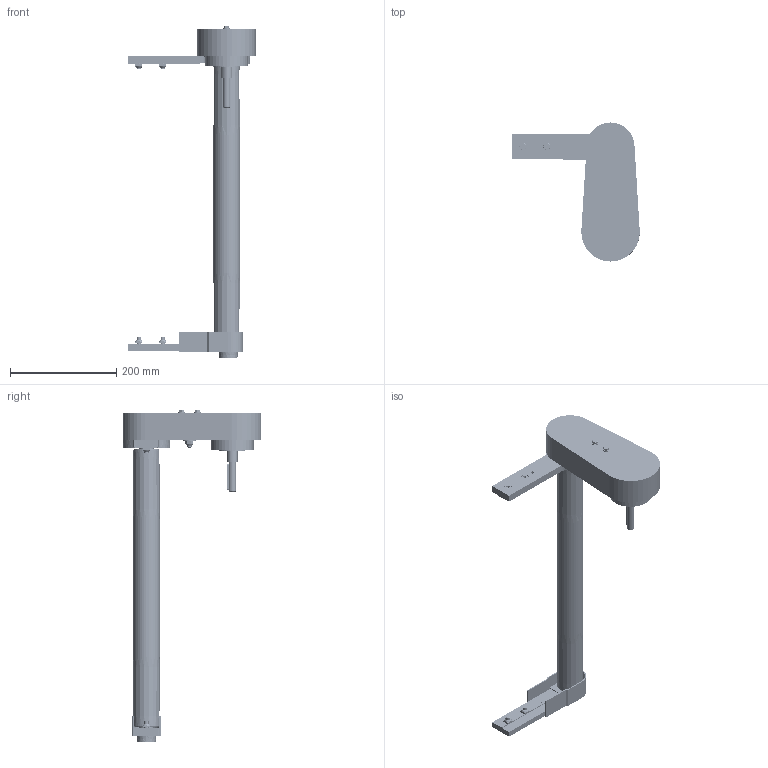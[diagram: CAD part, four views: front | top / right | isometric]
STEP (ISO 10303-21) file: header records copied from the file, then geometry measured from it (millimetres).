
FILE_DESCRIPTION (( 'STEP AP203' ), '1' );
FILE_NAME ('084.050.KTC.30.500.STEP', '2019-07-29T13:15:06', ( '' ), ( '' ), 'SwSTEP 2.0', 'SolidWorks 2018', '' );
FILE_SCHEMA (( 'CONFIG_CONTROL_DESIGN' ));
Length unit declared in the file: millimetre
Products named in the file (34): 084.810.005; 084.302.000 DADI ALUSIC 13x13_084.302.004; 084.809.001; 084.802.023_084.802.023; 084.802.034_084.802.034; 084.810.004; CHIAVETTE_A 8x7x25 UNI 6604-69; 084.803.012; 084.811.004; 084.809.003; 084.807.001_084.807.001; 084.301.000 VITI ALUSIC_084.301.003; 084.813.006; VITI TE UNI 5739_M6x50 UNI 5739; 084.815.120_Default<A macchina>; CHIAVETTE_A 5x5x50 UNI 6604-69; Circlip DIN 471 - 8 x 0.8_Circlip DIN 471 - 8 x 0.8; 084.803.014; 084.807.002_084.807.002; 084.813.001; 084.050.KTC.30.500; 084.802.021; 084.802.017_084.802.017; 084.810.010; 084.810.001; RONDELLE FASCIA LARGA UNI 6593_8.4x24 UNI 6593; VITI TSEI UNI 5933_M4x12 UNI 5933; VITI TE UNI 5739_M8x20 UNI 5739; CUSCINETTI A SFERE_608-2RS; 084.809.004; RONDELLE UNI 6592_8.4x17 UNI 6592; DADI ESAGONALI AUTOBLOCCANTI UNI 7473 INOX_M8 UNI 7473 INOX; VITI TE UNI 5739_M6x20 UNI 5739; RONDELLE UNI 6592_6.4x12.5 UNI 6592
Assembly tree (59 placements, depth 3):
  084.050.KTC.30.500
    084.802.023_084.802.023
    084.810.005
      084.810.010
      084.810.004
      CUSCINETTI A SFERE_608-2RS  x2
      Circlip DIN 471 - 8 x 0.8_Circlip DIN 471 - 8 x 0.8
      RONDELLE FASCIA LARGA UNI 6593_8.4x24 UNI 6593
      DADI ESAGONALI AUTOBLOCCANTI UNI 7473 INOX_M8 UNI 7473 INOX
    084.809.003
    084.803.014  x2
    084.809.004
    084.813.006
    084.802.021
    084.803.012
    084.809.001
    084.815.120_Default<A macchina>
    084.811.004
    084.813.001
    084.810.001  x2
    084.802.034_084.802.034
    084.802.017_084.802.017
    084.807.001_084.807.001
    084.807.002_084.807.002
    CHIAVETTE_A 8x7x25 UNI 6604-69  x2
    CHIAVETTE_A 5x5x50 UNI 6604-69
    VITI TSEI UNI 5933_M4x12 UNI 5933  x2
    RONDELLE UNI 6592_6.4x12.5 UNI 6592  x6
    VITI TE UNI 5739_M6x50 UNI 5739  x2
    VITI TE UNI 5739_M6x20 UNI 5739  x4
    RONDELLE UNI 6592_8.4x17 UNI 6592  x4
    VITI TE UNI 5739_M8x20 UNI 5739  x4
    084.301.000 VITI ALUSIC_084.301.003  x4
    084.302.000 DADI ALUSIC 13x13_084.302.004  x4
Bounding box: 240 x 261.5 x 624.6 mm (x, y, z)
Volume: 1147769.7 mm3; surface area: 677415.9 mm2
Topology: 88 solids, 89 shells, 3274 faces, 7657 edges, 4885 vertices
Faces by surface type: cylinder 1519, plane 904, bspline 476, cone 270, torus 96, sphere 9
Entity records: 89206 total; most frequent: CARTESIAN_POINT 19780, DIRECTION 14770, ORIENTED_EDGE 12864, EDGE_CURVE 6432, AXIS2_PLACEMENT_3D 6200, VERTEX_POINT 4100, CIRCLE 3845, EDGE_LOOP 3364
